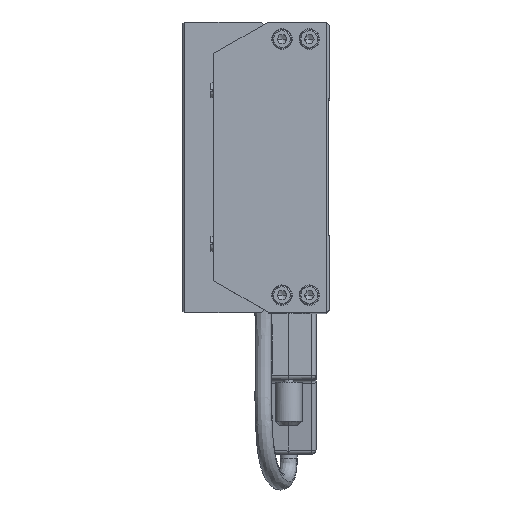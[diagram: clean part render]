
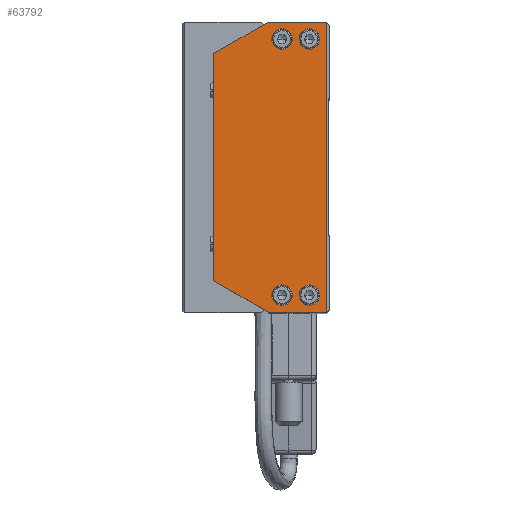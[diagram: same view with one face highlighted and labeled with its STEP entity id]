
A CAD part, top view. The second image highlights one B-rep face of the part: STEP entity #63792.
In plain terms, the highlighted planar face has unit normal (0, 0, 1).
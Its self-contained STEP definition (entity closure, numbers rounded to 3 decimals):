
#23764 = DIRECTION ( 'NONE',  ( -1., 0., 0. ) ) ;
#23765 = DIRECTION ( 'NONE',  ( 0., 0., -1. ) ) ;
#23766 = CARTESIAN_POINT ( 'NONE',  ( -0.86, 20.33, 252. ) ) ;
#23767 = AXIS2_PLACEMENT_3D ( 'NONE', #23766, #23765, #23764 ) ;
#23768 = CIRCLE ( 'NONE', #23767, 3. ) ;
#23866 = DIRECTION ( 'NONE',  ( 1., 0., 0. ) ) ;
#23867 = DIRECTION ( 'NONE',  ( 0., 0., -1. ) ) ;
#23868 = CARTESIAN_POINT ( 'NONE',  ( -0.86, -54.67, 252. ) ) ;
#23869 = AXIS2_PLACEMENT_3D ( 'NONE', #23868, #23867, #23866 ) ;
#23870 = CIRCLE ( 'NONE', #23869, 3. ) ;
#23875 = CARTESIAN_POINT ( 'NONE',  ( -28.86, 16.092, 252. ) ) ;
#23876 = DIRECTION ( 'NONE',  ( 0., -1., 0. ) ) ;
#23877 = VECTOR ( 'NONE', #23876, 1000. ) ;
#23878 = CARTESIAN_POINT ( 'NONE',  ( -28.86, -37.128, 252. ) ) ;
#23879 = LINE ( 'NONE', #23878, #23877 ) ;
#23880 = CARTESIAN_POINT ( 'NONE',  ( -28.86, -50.432, 252. ) ) ;
#23913 = DIRECTION ( 'NONE',  ( -1., 0., 0. ) ) ;
#23914 = DIRECTION ( 'NONE',  ( 0., 0., -1. ) ) ;
#23915 = CARTESIAN_POINT ( 'NONE',  ( -8.86, 20.33, 252. ) ) ;
#23916 = AXIS2_PLACEMENT_3D ( 'NONE', #23915, #23914, #23913 ) ;
#23917 = CIRCLE ( 'NONE', #23916, 3. ) ;
#23979 = DIRECTION ( 'NONE',  ( 1., 0., 0. ) ) ;
#23980 = DIRECTION ( 'NONE',  ( 0., 0., -1. ) ) ;
#23981 = CARTESIAN_POINT ( 'NONE',  ( -8.86, -54.67, 252. ) ) ;
#23982 = AXIS2_PLACEMENT_3D ( 'NONE', #23981, #23980, #23979 ) ;
#23983 = CIRCLE ( 'NONE', #23982, 3. ) ;
#25011 = CARTESIAN_POINT ( 'NONE',  ( -12.86, 25.33, 252. ) ) ;
#25012 = DIRECTION ( 'NONE',  ( -0.866, -0.5, 0. ) ) ;
#25013 = VECTOR ( 'NONE', #25012, 1000. ) ;
#25014 = CARTESIAN_POINT ( 'NONE',  ( -12.86, 25.33, 252. ) ) ;
#25015 = LINE ( 'NONE', #25014, #25013 ) ;
#25156 = DIRECTION ( 'NONE',  ( 0.866, -0.5, 0. ) ) ;
#25157 = VECTOR ( 'NONE', #25156, 1000. ) ;
#25158 = CARTESIAN_POINT ( 'NONE',  ( -28.86, -50.432, 252. ) ) ;
#25159 = LINE ( 'NONE', #25158, #25157 ) ;
#25160 = CARTESIAN_POINT ( 'NONE',  ( -12.86, -59.67, 252. ) ) ;
#25486 = DIRECTION ( 'NONE',  ( 1., 0., 0. ) ) ;
#25487 = DIRECTION ( 'NONE',  ( 0., 0., 1. ) ) ;
#25488 = CARTESIAN_POINT ( 'NONE',  ( -11.449, -37.128, 252. ) ) ;
#25489 = AXIS2_PLACEMENT_3D ( 'NONE', #25488, #25487, #25486 ) ;
#25490 = PLANE ( 'NONE',  #25489 ) ;
#25491 = FACE_BOUND ( 'NONE', #63884, .T. ) ;
#25492 = FACE_BOUND ( 'NONE', #63877, .T. ) ;
#25493 = FACE_BOUND ( 'NONE', #63927, .T. ) ;
#25494 = FACE_BOUND ( 'NONE', #63920, .T. ) ;
#25495 = FACE_OUTER_BOUND ( 'NONE', #63796, .T. ) ;
#25542 = VECTOR ( 'NONE', #25607, 1000. ) ;
#25543 = CARTESIAN_POINT ( 'NONE',  ( 4.14, 25.33, 252. ) ) ;
#25544 = LINE ( 'NONE', #25543, #25542 ) ;
#25545 = CARTESIAN_POINT ( 'NONE',  ( 4.14, 25.33, 252. ) ) ;
#25546 = DIRECTION ( 'NONE',  ( 0., -1., 0. ) ) ;
#25547 = VECTOR ( 'NONE', #25546, 1000. ) ;
#25548 = CARTESIAN_POINT ( 'NONE',  ( 4.14, -17.17, 252. ) ) ;
#25549 = LINE ( 'NONE', #25548, #25547 ) ;
#25550 = CARTESIAN_POINT ( 'NONE',  ( 4.14, -59.67, 252. ) ) ;
#25551 = DIRECTION ( 'NONE',  ( -1., 0., 0. ) ) ;
#25552 = VECTOR ( 'NONE', #25551, 1000. ) ;
#25553 = CARTESIAN_POINT ( 'NONE',  ( 4.14, -59.67, 252. ) ) ;
#25554 = LINE ( 'NONE', #25553, #25552 ) ;
#25607 = DIRECTION ( 'NONE',  ( 1., 0., 0. ) ) ;
#36595 = CARTESIAN_POINT ( 'NONE',  ( -3.86, -54.67, 252. ) ) ;
#36606 = CARTESIAN_POINT ( 'NONE',  ( 2.14, -54.67, 252. ) ) ;
#36607 = DIRECTION ( 'NONE',  ( 1., 0., 0. ) ) ;
#36608 = DIRECTION ( 'NONE',  ( 0., 0., -1. ) ) ;
#36609 = CARTESIAN_POINT ( 'NONE',  ( -0.86, -54.67, 252. ) ) ;
#36610 = AXIS2_PLACEMENT_3D ( 'NONE', #36609, #36608, #36607 ) ;
#36611 = CIRCLE ( 'NONE', #36610, 3. ) ;
#36644 = CARTESIAN_POINT ( 'NONE',  ( -11.86, -54.67, 252. ) ) ;
#36730 = CARTESIAN_POINT ( 'NONE',  ( -3.86, 20.33, 252. ) ) ;
#36731 = DIRECTION ( 'NONE',  ( -1., 0., 0. ) ) ;
#36732 = DIRECTION ( 'NONE',  ( 0., 0., -1. ) ) ;
#36733 = CARTESIAN_POINT ( 'NONE',  ( -0.86, 20.33, 252. ) ) ;
#36734 = AXIS2_PLACEMENT_3D ( 'NONE', #36733, #36732, #36731 ) ;
#36735 = CIRCLE ( 'NONE', #36734, 3. ) ;
#36870 = CARTESIAN_POINT ( 'NONE',  ( -11.86, 20.33, 252. ) ) ;
#36871 = CARTESIAN_POINT ( 'NONE',  ( -5.86, 20.33, 252. ) ) ;
#36872 = DIRECTION ( 'NONE',  ( -1., 0., 0. ) ) ;
#36873 = DIRECTION ( 'NONE',  ( 0., 0., -1. ) ) ;
#36874 = CARTESIAN_POINT ( 'NONE',  ( -8.86, 20.33, 252. ) ) ;
#36875 = AXIS2_PLACEMENT_3D ( 'NONE', #36874, #36873, #36872 ) ;
#36876 = CIRCLE ( 'NONE', #36875, 3. ) ;
#36903 = CARTESIAN_POINT ( 'NONE',  ( -5.86, -54.67, 252. ) ) ;
#36904 = DIRECTION ( 'NONE',  ( 1., 0., 0. ) ) ;
#36905 = DIRECTION ( 'NONE',  ( 0., 0., -1. ) ) ;
#36906 = CARTESIAN_POINT ( 'NONE',  ( -8.86, -54.67, 252. ) ) ;
#36907 = AXIS2_PLACEMENT_3D ( 'NONE', #36906, #36905, #36904 ) ;
#36908 = CIRCLE ( 'NONE', #36907, 3. ) ;
#36914 = CARTESIAN_POINT ( 'NONE',  ( 2.14, 20.33, 252. ) ) ;
#62032 = EDGE_CURVE ( 'NONE', #70223, #70309, #23768, .T. ) ;
#62112 = VERTEX_POINT ( 'NONE', #23880 ) ;
#62115 = EDGE_CURVE ( 'NONE', #62117, #62112, #23879, .T. ) ;
#62117 = VERTEX_POINT ( 'NONE', #23875 ) ;
#62133 = EDGE_CURVE ( 'NONE', #70167, #70196, #23870, .T. ) ;
#62163 = EDGE_CURVE ( 'NONE', #70288, #70287, #23917, .T. ) ;
#62250 = EDGE_CURVE ( 'NONE', #70206, #70321, #23983, .T. ) ;
#63196 = EDGE_CURVE ( 'NONE', #63198, #62117, #25015, .T. ) ;
#63198 = VERTEX_POINT ( 'NONE', #25011 ) ;
#63350 = VERTEX_POINT ( 'NONE', #25160 ) ;
#63354 = EDGE_CURVE ( 'NONE', #62112, #63350, #25159, .T. ) ;
#63792 = ADVANCED_FACE ( 'NONE', ( #25495, #25494, #25493, #25492, #25491 ), #25490, .T. ) ;
#63796 = EDGE_LOOP ( 'NONE', ( #63798, #63901, #63902, #63904, #63908, #63914 ) ) ;
#63798 = ORIENTED_EDGE ( 'NONE', *, *, #63196, .T. ) ;
#63872 = ORIENTED_EDGE ( 'NONE', *, *, #70193, .T. ) ;
#63874 = ORIENTED_EDGE ( 'NONE', *, *, #62133, .T. ) ;
#63877 = EDGE_LOOP ( 'NONE', ( #63879, #63881 ) ) ;
#63879 = ORIENTED_EDGE ( 'NONE', *, *, #62163, .T. ) ;
#63881 = ORIENTED_EDGE ( 'NONE', *, *, #70286, .T. ) ;
#63884 = EDGE_LOOP ( 'NONE', ( #63886, #63888 ) ) ;
#63886 = ORIENTED_EDGE ( 'NONE', *, *, #62032, .T. ) ;
#63888 = ORIENTED_EDGE ( 'NONE', *, *, #70220, .T. ) ;
#63901 = ORIENTED_EDGE ( 'NONE', *, *, #62115, .T. ) ;
#63902 = ORIENTED_EDGE ( 'NONE', *, *, #63354, .T. ) ;
#63904 = ORIENTED_EDGE ( 'NONE', *, *, #63905, .F. ) ;
#63905 = EDGE_CURVE ( 'NONE', #63907, #63350, #25554, .T. ) ;
#63907 = VERTEX_POINT ( 'NONE', #25550 ) ;
#63908 = ORIENTED_EDGE ( 'NONE', *, *, #63910, .F. ) ;
#63910 = EDGE_CURVE ( 'NONE', #63912, #63907, #25549, .T. ) ;
#63912 = VERTEX_POINT ( 'NONE', #25545 ) ;
#63914 = ORIENTED_EDGE ( 'NONE', *, *, #63916, .F. ) ;
#63916 = EDGE_CURVE ( 'NONE', #63198, #63912, #25544, .T. ) ;
#63920 = EDGE_LOOP ( 'NONE', ( #63922, #63924 ) ) ;
#63922 = ORIENTED_EDGE ( 'NONE', *, *, #70319, .T. ) ;
#63924 = ORIENTED_EDGE ( 'NONE', *, *, #62250, .T. ) ;
#63927 = EDGE_LOOP ( 'NONE', ( #63872, #63874 ) ) ;
#70167 = VERTEX_POINT ( 'NONE', #36595 ) ;
#70193 = EDGE_CURVE ( 'NONE', #70196, #70167, #36611, .T. ) ;
#70196 = VERTEX_POINT ( 'NONE', #36606 ) ;
#70206 = VERTEX_POINT ( 'NONE', #36644 ) ;
#70220 = EDGE_CURVE ( 'NONE', #70309, #70223, #36735, .T. ) ;
#70223 = VERTEX_POINT ( 'NONE', #36730 ) ;
#70286 = EDGE_CURVE ( 'NONE', #70287, #70288, #36876, .T. ) ;
#70287 = VERTEX_POINT ( 'NONE', #36871 ) ;
#70288 = VERTEX_POINT ( 'NONE', #36870 ) ;
#70309 = VERTEX_POINT ( 'NONE', #36914 ) ;
#70319 = EDGE_CURVE ( 'NONE', #70321, #70206, #36908, .T. ) ;
#70321 = VERTEX_POINT ( 'NONE', #36903 ) ;
